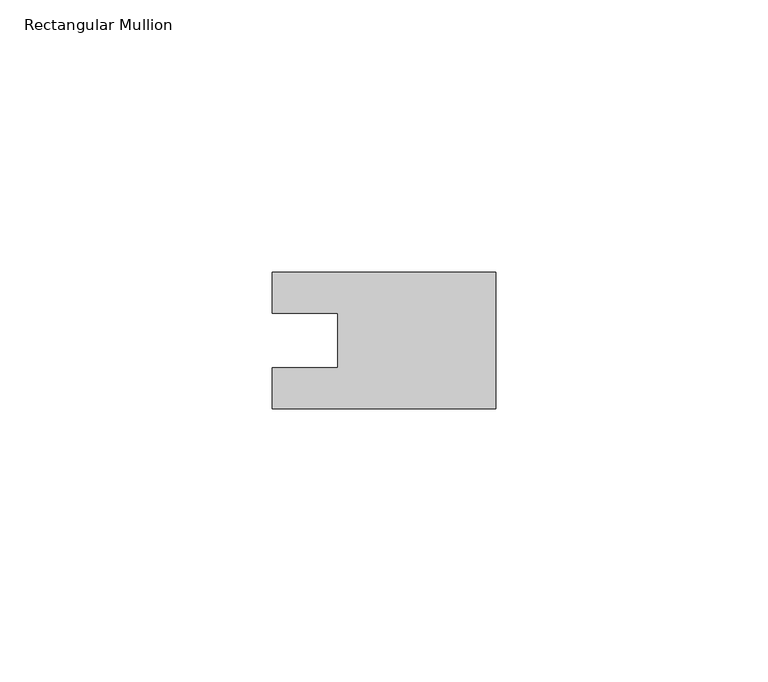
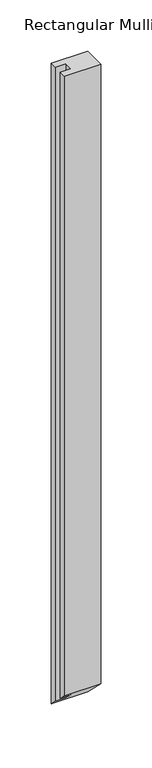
"""IFC4 building model written with IfcOpenShell, lengths in millimetres: member geometry, Rectangular Mullion : 22_IM_CF_DET1_boven_40mm."""

from ifc_helpers import new_model, si_unit, origin, place, context, project, spatial, faceted_brep, source, transform, mapped, element, save


def rectangular_mullion_f6220092(model_context):
    return source(origin(), model_context, "Body", "Brep", [
        faceted_brep([(0.0, 12.5, 0.0), (-41.0, 12.5, 0.0), (-41.0, 5.0, 0.0), (-29.0, 5.0, 0.0), (-29.0, -5.0, 0.0), (-41.0, -5.0, 0.0), (-41.0, -12.5, 0.0), (0.0, -12.5, 0.0), (0.0, 12.5, -762.5), (-41.0, 12.5, -762.5), (-41.0, 5.0, -755.0), (-29.0, 5.0, -755.0), (-29.0, -5.0, -745.0), (-41.0, -5.0, -745.0), (-41.0, -12.5, -737.5), (0.0, -12.5, -737.5)], [[[0, 1, 2, 3, 4, 5, 6, 7]], [[1, 0, 8, 9]], [[2, 1, 9, 10]], [[3, 2, 10, 11]], [[4, 3, 11, 12]], [[5, 4, 12, 13]], [[6, 5, 13, 14]], [[7, 6, 14, 15]], [[0, 7, 15, 8]], [[8, 15, 14, 13, 12, 11, 10, 9]]]),
    ])


if __name__ == "__main__":
    model = new_model("IFC4")
    model_context = context("Model", 3, world=origin())
    ifc_project = project(units=[si_unit("LENGTHUNIT", "METRE", prefix="MILLI")], contexts=[model_context])
    site = spatial("IfcSite", under=ifc_project)
    building = spatial("IfcBuilding", under=site)
    placement = place(None, origin())
    rectangular_mullion_shape = rectangular_mullion_f6220092(model_context)
    element("IfcMember", 1, ObjectType="Rectangular Mullion : 22_IM_CF_DET1_boven_40mm", at=placement, inside=building, context=model_context, shape_type="MappedRepresentation", body=[
        mapped(rectangular_mullion_shape, transform((0.0, 0.0, 0.0), x_axis=(1.0, 0.0, 0.0), y_axis=(0.0, 1.0, 0.0), z_axis=(0.0, 0.0, 1.0))),
    ])
    save(model, "model.ifc")
